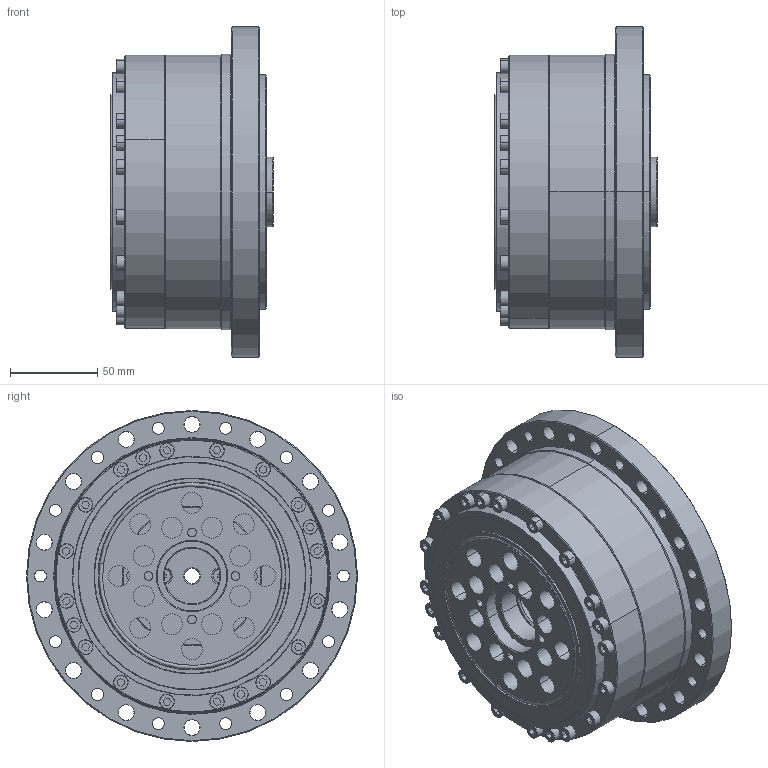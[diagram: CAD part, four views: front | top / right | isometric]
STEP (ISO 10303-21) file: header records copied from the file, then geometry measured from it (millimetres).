
FILE_DESCRIPTION (( 'STEP AP203' ), '1' );
FILE_NAME ('FCS-50-XXX-AJ.STEP', '2023-02-27T02:50:56', ( '微软用户' ), ( '微软中国' ), 'SwSTEP 2.0', 'SolidWorks 2016', '' );
FILE_SCHEMA (( 'CONFIG_CONTROL_DESIGN' ));
Length unit declared in the file: millimetre
Products named in the file (1): FCS-50-XXX-AJ
Bounding box: 93 x 190 x 190 mm (x, y, z)
Volume: 1166224.3 mm3; surface area: 423308.1 mm2
Topology: 71 solids, 71 shells, 1498 faces, 3453 edges, 2113 vertices
Faces by surface type: cylinder 523, plane 405, cone 360, torus 164, sphere 46
Entity records: 41873 total; most frequent: DIRECTION 8118, CARTESIAN_POINT 6857, ORIENTED_EDGE 6604, AXIS2_PLACEMENT_3D 3321, EDGE_CURVE 3302, VERTEX_POINT 2044, CIRCLE 1822, EDGE_LOOP 1816
